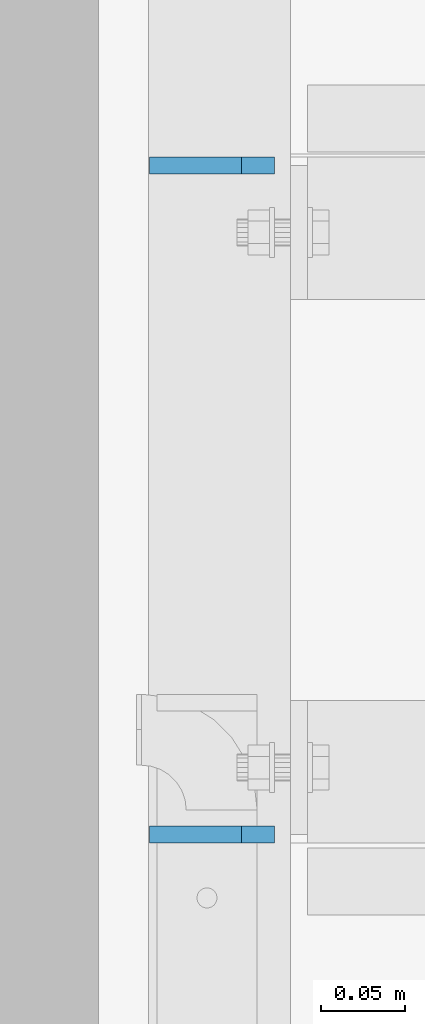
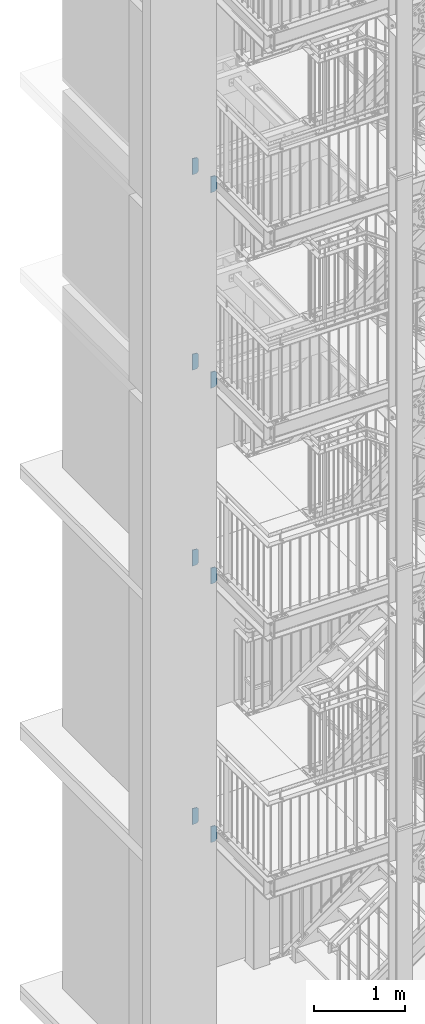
# One storey, part 156 of 825: 8 plates, 16 openings.
"""IFC2X3 building model written with IfcOpenShell, lengths in millimetres."""

from ifc_helpers import new_model, entity, si_unit, converted_unit, frame, origin, origin_with_axes, place, context, project, spatial, polyline, outline, extrude, material, layer, layer_set, element, save


model = new_model("IFC2X3")

# Units and contexts
model_context = context("Model", 3, precision=1e-09, world=origin_with_axes())
ifc_project = project(units=[si_unit("LENGTHUNIT", "METRE", prefix="MILLI"), si_unit("AREAUNIT", "SQUARE_METRE"), si_unit("VOLUMEUNIT", "CUBIC_METRE"), converted_unit("PLANEANGLEUNIT", "DEGREE", entity("IfcPlaneAngleMeasure", 0.01745329), si_unit("PLANEANGLEUNIT", "RADIAN"), dimensions=[0, 0, 0, 0, 0, 0, 0])], contexts=[model_context])

# Site, building, storey
site_placement = place(None, origin_with_axes())
site = spatial("IfcSite", under=ifc_project, at=site_placement, Name="Cnopf'sche Kinderklinik", CompositionType="ELEMENT")
building_placement = place(site_placement, origin_with_axes())
building = spatial("IfcBuilding", under=site, at=building_placement, Name="Struktur 1", CompositionType="ELEMENT")
storey_placement = place(building_placement, origin_with_axes())
storey = spatial("IfcBuildingStorey", under=building, at=storey_placement, Name="Default Storey", CompositionType="ELEMENT", Elevation=0.0)

# Plate, openings
ifc_material = material(Name="S235JR")
ifc_layer = layer(ifc_material, 10.0)
ifc_layer_set = layer_set([ifc_layer], Name="S235JR")
plate_1_placement = place(None, frame((3312.213402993, 5746.736971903, 3829.855161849), z_axis=(0.0, -1.0, 0.0), x_axis=(-0.996815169, 0.0, 0.079746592)))
plate_1 = element("IfcPlate", 1, at=plate_1_placement, inside=storey, material=ifc_layer_set, Name="Stiffener#1", ObjectType="Stiffener#1", context=model_context, shape_type="SweptSolid", body=[
    extrude(outline(polyline([(0.0, 0.0), (75.239625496, 0.0), (57.877952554, 217.017159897), (-16.404697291, 205.05517107), (0.0, 0.0)])), origin_with_axes(), (0.0, 0.0, 1.0), 10.0),
])
opening_1_placement = place(plate_1_placement, frame((0.0, 0.0, -0.01), z_axis=(0.0, 0.0, 1.0), x_axis=(1.0, 0.0, 0.0)))
element("IfcOpeningElement", 2, at=opening_1_placement, cuts=plate_1, ObjectType="Opening", context=model_context, shape_type="SweptSolid", body=[
    extrude(outline(polyline([(-16.404697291, 205.05517107), (-14.809765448, 185.118867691), (3.34092195, 208.23487558), (-16.404697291, 205.05517107)])), origin(), (0.0, 0.0, 1.0), 10.02),
])
opening_2_placement = place(plate_1_placement, frame((0.0, 0.0, -0.01), z_axis=(0.0, 0.0, 1.0), x_axis=(1.0, 0.0, 0.0)))
element("IfcOpeningElement", 3, at=opening_2_placement, cuts=plate_1, ObjectType="Opening", context=model_context, shape_type="SweptSolid", body=[
    extrude(outline(polyline([(0.0, 0.0), (20.0, 0.0), (-1.594931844, 19.936303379), (0.0, 0.0)])), origin(), (0.0, 0.0, 1.0), 10.02),
])

plate_2_placement = place(None, frame((3312.213402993, 6146.736971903, 3829.855161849), z_axis=(0.0, -1.0, 0.0), x_axis=(-0.996815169, 0.0, 0.079746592)))
plate_2 = element("IfcPlate", 4, at=plate_2_placement, inside=storey, material=ifc_layer_set, Name="Stiffener#1", ObjectType="Stiffener#1", context=model_context, shape_type="SweptSolid", body=[
    extrude(outline(polyline([(0.0, 0.0), (75.239625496, 0.0), (57.877952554, 217.017159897), (-16.404697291, 205.05517107), (0.0, 0.0)])), origin_with_axes(), (0.0, 0.0, 1.0), 10.0),
])
opening_3_placement = place(plate_2_placement, frame((0.0, 0.0, -0.01), z_axis=(0.0, 0.0, 1.0), x_axis=(1.0, 0.0, 0.0)))
element("IfcOpeningElement", 5, at=opening_3_placement, cuts=plate_2, ObjectType="Opening", context=model_context, shape_type="SweptSolid", body=[
    extrude(outline(polyline([(-16.404697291, 205.05517107), (-14.809765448, 185.118867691), (3.34092195, 208.23487558), (-16.404697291, 205.05517107)])), origin(), (0.0, 0.0, 1.0), 10.02),
])
opening_4_placement = place(plate_2_placement, frame((0.0, 0.0, -0.01), z_axis=(0.0, 0.0, 1.0), x_axis=(1.0, 0.0, 0.0)))
element("IfcOpeningElement", 6, at=opening_4_placement, cuts=plate_2, ObjectType="Opening", context=model_context, shape_type="SweptSolid", body=[
    extrude(outline(polyline([(0.0, 0.0), (20.0, 0.0), (-1.594931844, 19.936303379), (0.0, 0.0)])), origin(), (0.0, 0.0, 1.0), 10.02),
])

plate_3_placement = place(None, frame((3312.213402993, 5746.736971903, 7302.855161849), z_axis=(0.0, -1.0, 0.0), x_axis=(-0.996815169, 0.0, 0.079746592)))
plate_3 = element("IfcPlate", 7, at=plate_3_placement, inside=storey, material=ifc_layer_set, Name="Stiffener#1", ObjectType="Stiffener#1", context=model_context, shape_type="SweptSolid", body=[
    extrude(outline(polyline([(0.0, 0.0), (75.239625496, 0.0), (57.877952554, 217.017159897), (-16.404697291, 205.05517107), (0.0, 0.0)])), origin_with_axes(), (0.0, 0.0, 1.0), 10.0),
])
opening_5_placement = place(plate_3_placement, frame((0.0, 0.0, -0.01), z_axis=(0.0, 0.0, 1.0), x_axis=(1.0, 0.0, 0.0)))
element("IfcOpeningElement", 8, at=opening_5_placement, cuts=plate_3, ObjectType="Opening", context=model_context, shape_type="SweptSolid", body=[
    extrude(outline(polyline([(-16.404697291, 205.05517107), (-14.809765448, 185.118867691), (3.34092195, 208.23487558), (-16.404697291, 205.05517107)])), origin(), (0.0, 0.0, 1.0), 10.02),
])
opening_6_placement = place(plate_3_placement, frame((0.0, 0.0, -0.01), z_axis=(0.0, 0.0, 1.0), x_axis=(1.0, 0.0, 0.0)))
element("IfcOpeningElement", 9, at=opening_6_placement, cuts=plate_3, ObjectType="Opening", context=model_context, shape_type="SweptSolid", body=[
    extrude(outline(polyline([(0.0, 0.0), (20.0, 0.0), (-1.594931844, 19.936303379), (0.0, 0.0)])), origin(), (0.0, 0.0, 1.0), 10.02),
])

plate_4_placement = place(None, frame((3312.213402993, 6146.736971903, 7302.855161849), z_axis=(0.0, -1.0, 0.0), x_axis=(-0.996815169, 0.0, 0.079746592)))
plate_4 = element("IfcPlate", 10, at=plate_4_placement, inside=storey, material=ifc_layer_set, Name="Stiffener#1", ObjectType="Stiffener#1", context=model_context, shape_type="SweptSolid", body=[
    extrude(outline(polyline([(0.0, 0.0), (75.239625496, 0.0), (57.877952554, 217.017159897), (-16.404697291, 205.05517107), (0.0, 0.0)])), origin_with_axes(), (0.0, 0.0, 1.0), 10.0),
])
opening_7_placement = place(plate_4_placement, frame((0.0, 0.0, -0.01), z_axis=(0.0, 0.0, 1.0), x_axis=(1.0, 0.0, 0.0)))
element("IfcOpeningElement", 11, at=opening_7_placement, cuts=plate_4, ObjectType="Opening", context=model_context, shape_type="SweptSolid", body=[
    extrude(outline(polyline([(-16.404697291, 205.05517107), (-14.809765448, 185.118867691), (3.34092195, 208.23487558), (-16.404697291, 205.05517107)])), origin(), (0.0, 0.0, 1.0), 10.02),
])
opening_8_placement = place(plate_4_placement, frame((0.0, 0.0, -0.01), z_axis=(0.0, 0.0, 1.0), x_axis=(1.0, 0.0, 0.0)))
element("IfcOpeningElement", 12, at=opening_8_placement, cuts=plate_4, ObjectType="Opening", context=model_context, shape_type="SweptSolid", body=[
    extrude(outline(polyline([(0.0, 0.0), (20.0, 0.0), (-1.594931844, 19.936303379), (0.0, 0.0)])), origin(), (0.0, 0.0, 1.0), 10.02),
])

plate_5_placement = place(None, frame((3312.213402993, 6146.736971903, 9934.855161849), z_axis=(0.0, -1.0, 0.0), x_axis=(-0.996815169, 0.0, 0.079746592)))
plate_5 = element("IfcPlate", 13, at=plate_5_placement, inside=storey, material=ifc_layer_set, Name="Stiffener#1", ObjectType="Stiffener#1", context=model_context, shape_type="SweptSolid", body=[
    extrude(outline(polyline([(0.0, 0.0), (75.239625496, 0.0), (57.877952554, 217.017159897), (-16.404697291, 205.05517107), (0.0, 0.0)])), origin_with_axes(), (0.0, 0.0, 1.0), 10.0),
])
opening_9_placement = place(plate_5_placement, frame((0.0, 0.0, -0.01), z_axis=(0.0, 0.0, 1.0), x_axis=(1.0, 0.0, 0.0)))
element("IfcOpeningElement", 14, at=opening_9_placement, cuts=plate_5, ObjectType="Opening", context=model_context, shape_type="SweptSolid", body=[
    extrude(outline(polyline([(-16.404697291, 205.05517107), (-14.809765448, 185.118867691), (3.34092195, 208.23487558), (-16.404697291, 205.05517107)])), origin(), (0.0, 0.0, 1.0), 10.02),
])
opening_10_placement = place(plate_5_placement, frame((0.0, 0.0, -0.01), z_axis=(0.0, 0.0, 1.0), x_axis=(1.0, 0.0, 0.0)))
element("IfcOpeningElement", 15, at=opening_10_placement, cuts=plate_5, ObjectType="Opening", context=model_context, shape_type="SweptSolid", body=[
    extrude(outline(polyline([(0.0, 0.0), (20.0, 0.0), (-1.594931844, 19.936303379), (0.0, 0.0)])), origin(), (0.0, 0.0, 1.0), 10.02),
])

plate_6_placement = place(None, frame((3312.213402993, 5746.736971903, 9934.855161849), z_axis=(0.0, -1.0, 0.0), x_axis=(-0.996815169, 0.0, 0.079746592)))
plate_6 = element("IfcPlate", 16, at=plate_6_placement, inside=storey, material=ifc_layer_set, Name="Stiffener#1", ObjectType="Stiffener#1", context=model_context, shape_type="SweptSolid", body=[
    extrude(outline(polyline([(0.0, 0.0), (75.239625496, 0.0), (57.877952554, 217.017159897), (-16.404697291, 205.05517107), (0.0, 0.0)])), origin_with_axes(), (0.0, 0.0, 1.0), 10.0),
])
opening_11_placement = place(plate_6_placement, frame((0.0, 0.0, -0.01), z_axis=(0.0, 0.0, 1.0), x_axis=(1.0, 0.0, 0.0)))
element("IfcOpeningElement", 17, at=opening_11_placement, cuts=plate_6, ObjectType="Opening", context=model_context, shape_type="SweptSolid", body=[
    extrude(outline(polyline([(-16.404697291, 205.05517107), (-14.809765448, 185.118867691), (3.34092195, 208.23487558), (-16.404697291, 205.05517107)])), origin(), (0.0, 0.0, 1.0), 10.02),
])
opening_12_placement = place(plate_6_placement, frame((0.0, 0.0, -0.01), z_axis=(0.0, 0.0, 1.0), x_axis=(1.0, 0.0, 0.0)))
element("IfcOpeningElement", 18, at=opening_12_placement, cuts=plate_6, ObjectType="Opening", context=model_context, shape_type="SweptSolid", body=[
    extrude(outline(polyline([(0.0, 0.0), (20.0, 0.0), (-1.594931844, 19.936303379), (0.0, 0.0)])), origin(), (0.0, 0.0, 1.0), 10.02),
])

plate_7_placement = place(None, frame((3312.213402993, 6146.736971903, 12561.855161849), z_axis=(0.0, -1.0, 0.0), x_axis=(-0.996815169, 0.0, 0.079746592)))
plate_7 = element("IfcPlate", 19, at=plate_7_placement, inside=storey, material=ifc_layer_set, Name="Stiffener#1", ObjectType="Stiffener#1", context=model_context, shape_type="SweptSolid", body=[
    extrude(outline(polyline([(0.0, 0.0), (75.239625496, 0.0), (57.877952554, 217.017159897), (-16.404697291, 205.05517107), (0.0, 0.0)])), origin_with_axes(), (0.0, 0.0, 1.0), 10.0),
])
opening_13_placement = place(plate_7_placement, frame((0.0, 0.0, -0.01), z_axis=(0.0, 0.0, 1.0), x_axis=(1.0, 0.0, 0.0)))
element("IfcOpeningElement", 20, at=opening_13_placement, cuts=plate_7, ObjectType="Opening", context=model_context, shape_type="SweptSolid", body=[
    extrude(outline(polyline([(-16.404697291, 205.05517107), (-14.809765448, 185.118867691), (3.34092195, 208.23487558), (-16.404697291, 205.05517107)])), origin(), (0.0, 0.0, 1.0), 10.02),
])
opening_14_placement = place(plate_7_placement, frame((0.0, 0.0, -0.01), z_axis=(0.0, 0.0, 1.0), x_axis=(1.0, 0.0, 0.0)))
element("IfcOpeningElement", 21, at=opening_14_placement, cuts=plate_7, ObjectType="Opening", context=model_context, shape_type="SweptSolid", body=[
    extrude(outline(polyline([(0.0, 0.0), (20.0, 0.0), (-1.594931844, 19.936303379), (0.0, 0.0)])), origin(), (0.0, 0.0, 1.0), 10.02),
])

plate_8_placement = place(None, frame((3312.213402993, 5746.736971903, 12561.855161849), z_axis=(0.0, -1.0, 0.0), x_axis=(-0.996815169, 0.0, 0.079746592)))
plate_8 = element("IfcPlate", 22, at=plate_8_placement, inside=storey, material=ifc_layer_set, Name="Stiffener#1", ObjectType="Stiffener#1", context=model_context, shape_type="SweptSolid", body=[
    extrude(outline(polyline([(0.0, 0.0), (75.239625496, 0.0), (57.877952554, 217.017159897), (-16.404697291, 205.05517107), (0.0, 0.0)])), origin_with_axes(), (0.0, 0.0, 1.0), 10.0),
])
opening_15_placement = place(plate_8_placement, frame((0.0, 0.0, -0.01), z_axis=(0.0, 0.0, 1.0), x_axis=(1.0, 0.0, 0.0)))
element("IfcOpeningElement", 23, at=opening_15_placement, cuts=plate_8, ObjectType="Opening", context=model_context, shape_type="SweptSolid", body=[
    extrude(outline(polyline([(-16.404697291, 205.05517107), (-14.809765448, 185.118867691), (3.34092195, 208.23487558), (-16.404697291, 205.05517107)])), origin(), (0.0, 0.0, 1.0), 10.02),
])
opening_16_placement = place(plate_8_placement, frame((0.0, 0.0, -0.01), z_axis=(0.0, 0.0, 1.0), x_axis=(1.0, 0.0, 0.0)))
element("IfcOpeningElement", 24, at=opening_16_placement, cuts=plate_8, ObjectType="Opening", context=model_context, shape_type="SweptSolid", body=[
    extrude(outline(polyline([(0.0, 0.0), (20.0, 0.0), (-1.594931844, 19.936303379), (0.0, 0.0)])), origin(), (0.0, 0.0, 1.0), 10.02),
])

save(model, "model.ifc")
